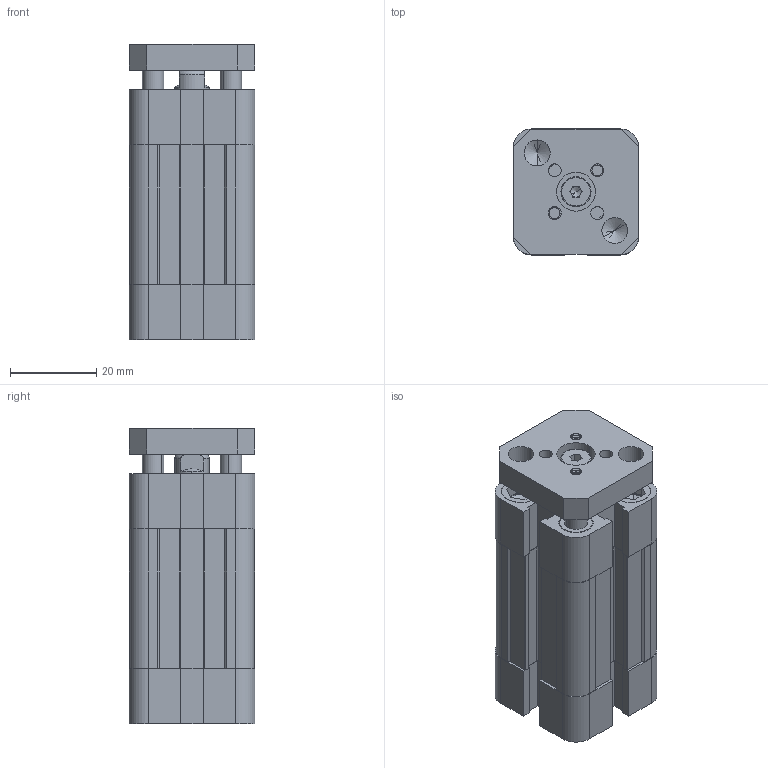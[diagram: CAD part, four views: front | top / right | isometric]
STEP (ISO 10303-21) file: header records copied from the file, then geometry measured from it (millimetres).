
FILE_DESCRIPTION (( 'STEP AP203' ), '1' );
FILE_NAME ('NSKU016.0020 F AR.STEP', '2010-06-04T12:18:41', ( 'Vesta Automation srl' ), ( 'Vesta Automation srl' ), 'SwSTEP 2.0', 'SolidWorks 2009', '' );
FILE_SCHEMA (( 'CONFIG_CONTROL_DESIGN' ));
Length unit declared in the file: millimetre
Products named in the file (7): ANTI ROTATION STEEM-NSKU16AR_STROKE 0020; PISTON ROD-NSKU 016 F_STROKE 0020; NSKU016.0020 F AR; FRONT END CAP-NSKU 16 AR; ANTI ROTATION PLATE-NSKU16AR; REAR END CAP-NSKU 16 AR; BARREL-NSKU16AR_STROKE 0020
Assembly tree (7 placements, depth 2):
  NSKU016.0020 F AR
    ANTI ROTATION STEEM-NSKU16AR_STROKE 0020  x2
    ANTI ROTATION PLATE-NSKU16AR
    PISTON ROD-NSKU 016 F_STROKE 0020
    REAR END CAP-NSKU 16 AR
    BARREL-NSKU16AR_STROKE 0020
    FRONT END CAP-NSKU 16 AR
Bounding box: 29.2 x 29.2 x 68.5 mm (x, y, z)
Volume: 40594.6 mm3; surface area: 25671.5 mm2
Topology: 8 solids, 8 shells, 725 faces, 1759 edges, 1074 vertices
Faces by surface type: plane 331, cone 233, cylinder 157, torus 4
Entity records: 21597 total; most frequent: DIRECTION 3742, CARTESIAN_POINT 3607, ORIENTED_EDGE 3478, EDGE_CURVE 1739, AXIS2_PLACEMENT_3D 1281, VECTOR 1180, LINE 1180, VERTEX_POINT 1068
